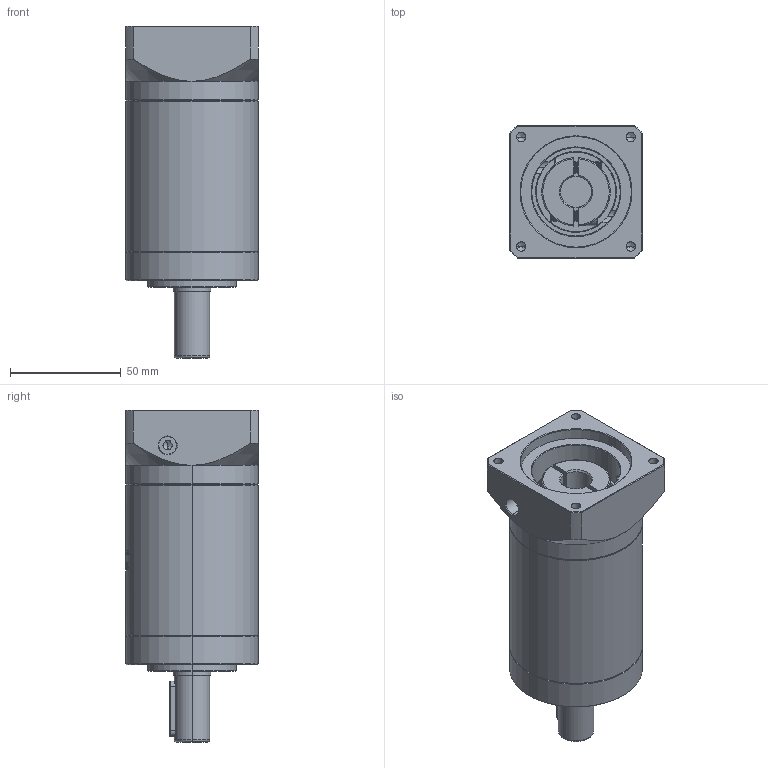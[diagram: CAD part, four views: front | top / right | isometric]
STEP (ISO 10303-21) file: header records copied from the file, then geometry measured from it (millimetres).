
FILE_DESCRIPTION (( 'STEP AP214' ), '1' );
FILE_NAME ('ZE60-D16-L3-14-50-70-M5.STEP', '2022-04-17T15:30:51', ( '' ), ( 'Microsoft' ), 'SwSTEP 2.0', 'SolidWorks 2016', '' );
FILE_SCHEMA (( 'AUTOMOTIVE_DESIGN' ));
Length unit declared in the file: millimetre
Products named in the file (1): ZE60-D16-L3-14-50-70-M5
Bounding box: 60 x 60 x 150 mm (x, y, z)
Volume: 312939.4 mm3; surface area: 49227 mm2
Topology: 6 solids, 6 shells, 1598 faces, 4328 edges, 2802 vertices
Faces by surface type: plane 724, cylinder 335, bspline 299, cone 222, torus 18
Entity records: 90507 total; most frequent: CARTESIAN_POINT 36418, ORIENTED_EDGE 8612, DIRECTION 6298, EDGE_CURVE 4306, VERTEX_POINT 2802, VECTOR 2204, LINE 2204, AXIS2_PLACEMENT_3D 2047
